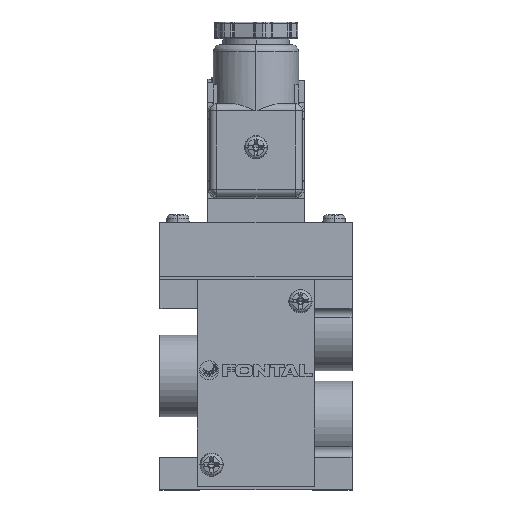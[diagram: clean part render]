
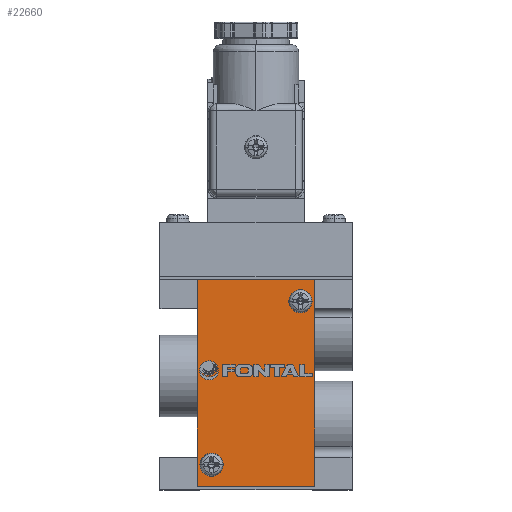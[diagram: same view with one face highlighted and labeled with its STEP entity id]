
A CAD part, top view. The second image highlights one B-rep face of the part: STEP entity #22660.
In plain terms, the highlighted planar face has unit normal (0, 0, 1).
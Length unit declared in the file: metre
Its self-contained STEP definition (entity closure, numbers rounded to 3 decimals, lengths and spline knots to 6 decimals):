
#541 = CARTESIAN_POINT ( 'NONE',  ( 0.0165, 0.029, 0.0016 ) ) ;
#773 = DIRECTION ( 'NONE',  ( 1., 0., 0. ) ) ;
#1179 = CARTESIAN_POINT ( 'NONE',  ( 0., 0.029, 0.0016 ) ) ;
#1289 = DIRECTION ( 'NONE',  ( 0., 0., 1. ) ) ;
#1467 = VERTEX_POINT ( 'NONE', #6430 ) ;
#1521 = EDGE_CURVE ( 'NONE', #15125, #1467, #24216, .T. ) ;
#1879 = ORIENTED_EDGE ( 'NONE', *, *, #1521, .F. ) ;
#2468 = CARTESIAN_POINT ( 'NONE',  ( -0.0105, -0.023, 0.0016 ) ) ;
#2470 = VERTEX_POINT ( 'NONE', #5895 ) ;
#3656 = VECTOR ( 'NONE', #24453, 1. ) ;
#3700 = ORIENTED_EDGE ( 'NONE', *, *, #21909, .F. ) ;
#3944 = CARTESIAN_POINT ( 'NONE',  ( 0.0165, -0.029, 0.0016 ) ) ;
#4096 = FACE_OUTER_BOUND ( 'NONE', #26888, .T. ) ;
#4547 = DIRECTION ( 'NONE',  ( 0., 0., 1. ) ) ;
#5198 = ORIENTED_EDGE ( 'NONE', *, *, #10574, .F. ) ;
#5479 = CARTESIAN_POINT ( 'NONE',  ( -0.0165, -0.029, 0.0016 ) ) ;
#5895 = CARTESIAN_POINT ( 'NONE',  ( -0.0145, -0.023, 0.0016 ) ) ;
#5945 = AXIS2_PLACEMENT_3D ( 'NONE', #14179, #1289, #16351 ) ;
#6124 = DIRECTION ( 'NONE',  ( 0., 0., -1. ) ) ;
#6430 = CARTESIAN_POINT ( 'NONE',  ( 0.0145, 0.023, 0.0016 ) ) ;
#6559 = CARTESIAN_POINT ( 'NONE',  ( -0.0125, -0.023, 0.0016 ) ) ;
#6743 = EDGE_LOOP ( 'NONE', ( #27278, #19245 ) ) ;
#6746 = VERTEX_POINT ( 'NONE', #21841 ) ;
#7793 = EDGE_CURVE ( 'NONE', #2470, #17651, #13825, .T. ) ;
#8023 = ORIENTED_EDGE ( 'NONE', *, *, #26272, .F. ) ;
#8698 = DIRECTION ( 'NONE',  ( 1., 0., 0. ) ) ;
#9001 = EDGE_LOOP ( 'NONE', ( #3700, #1879 ) ) ;
#9319 = VECTOR ( 'NONE', #16247, 1. ) ;
#9747 = FACE_BOUND ( 'NONE', #9001, .T. ) ;
#10543 = CARTESIAN_POINT ( 'NONE',  ( -0.0165, 0., 0.0016 ) ) ;
#10574 = EDGE_CURVE ( 'NONE', #19387, #6746, #15083, .T. ) ;
#11661 = CARTESIAN_POINT ( 'NONE',  ( 0.0105, 0.023, 0.0016 ) ) ;
#12496 = PLANE ( 'NONE',  #25179 ) ;
#12655 = EDGE_CURVE ( 'NONE', #17651, #2470, #25483, .T. ) ;
#12942 = AXIS2_PLACEMENT_3D ( 'NONE', #17410, #4547, #19622 ) ;
#13609 = DIRECTION ( 'NONE',  ( 0., 0., 1. ) ) ;
#13825 = CIRCLE ( 'NONE', #16481, 0.002 ) ;
#14179 = CARTESIAN_POINT ( 'NONE',  ( -0.0125, -0.023, 0.0016 ) ) ;
#14433 = VERTEX_POINT ( 'NONE', #5479 ) ;
#15083 = LINE ( 'NONE', #22296, #3656 ) ;
#15125 = VERTEX_POINT ( 'NONE', #11661 ) ;
#15503 = FACE_BOUND ( 'NONE', #6743, .T. ) ;
#15809 = CARTESIAN_POINT ( 'NONE',  ( -0.0165, 0.029, 0.0016 ) ) ;
#16103 = VECTOR ( 'NONE', #23261, 1. ) ;
#16247 = DIRECTION ( 'NONE',  ( 1., 0., 0. ) ) ;
#16351 = DIRECTION ( 'NONE',  ( 1., 0., 0. ) ) ;
#16481 = AXIS2_PLACEMENT_3D ( 'NONE', #6559, #21661, #8698 ) ;
#17410 = CARTESIAN_POINT ( 'NONE',  ( 0.0125, 0.023, 0.0016 ) ) ;
#17651 = VERTEX_POINT ( 'NONE', #2468 ) ;
#18533 = LINE ( 'NONE', #10543, #22933 ) ;
#19074 = ORIENTED_EDGE ( 'NONE', *, *, #24629, .F. ) ;
#19245 = ORIENTED_EDGE ( 'NONE', *, *, #7793, .F. ) ;
#19387 = VERTEX_POINT ( 'NONE', #541 ) ;
#19622 = DIRECTION ( 'NONE',  ( 1., 0., 0. ) ) ;
#20440 = VERTEX_POINT ( 'NONE', #15809 ) ;
#20451 = AXIS2_PLACEMENT_3D ( 'NONE', #26606, #13609, #773 ) ;
#21179 = DIRECTION ( 'NONE',  ( -1., 0., 0. ) ) ;
#21661 = DIRECTION ( 'NONE',  ( 0., 0., 1. ) ) ;
#21841 = CARTESIAN_POINT ( 'NONE',  ( 0.0165, -0.029, 0.0016 ) ) ;
#21909 = EDGE_CURVE ( 'NONE', #1467, #15125, #27832, .T. ) ;
#22296 = CARTESIAN_POINT ( 'NONE',  ( 0.0165, 0., 0.0016 ) ) ;
#22660 = ADVANCED_FACE ( 'NONE', ( #9747, #15503, #4096 ), #12496, .F. ) ;
#22933 = VECTOR ( 'NONE', #27855, 1. ) ;
#23261 = DIRECTION ( 'NONE',  ( -1., 0., 0. ) ) ;
#23444 = CARTESIAN_POINT ( 'NONE',  ( 0., -0.029, 0.0016 ) ) ;
#24018 = EDGE_CURVE ( 'NONE', #6746, #14433, #26282, .T. ) ;
#24216 = CIRCLE ( 'NONE', #12942, 0.002 ) ;
#24307 = ORIENTED_EDGE ( 'NONE', *, *, #24018, .F. ) ;
#24453 = DIRECTION ( 'NONE',  ( 0., -1., 0. ) ) ;
#24629 = EDGE_CURVE ( 'NONE', #14433, #20440, #18533, .T. ) ;
#25179 = AXIS2_PLACEMENT_3D ( 'NONE', #3944, #6124, #21179 ) ;
#25483 = CIRCLE ( 'NONE', #5945, 0.002 ) ;
#25898 = LINE ( 'NONE', #1179, #9319 ) ;
#26272 = EDGE_CURVE ( 'NONE', #20440, #19387, #25898, .T. ) ;
#26282 = LINE ( 'NONE', #23444, #16103 ) ;
#26606 = CARTESIAN_POINT ( 'NONE',  ( 0.0125, 0.023, 0.0016 ) ) ;
#26888 = EDGE_LOOP ( 'NONE', ( #8023, #19074, #24307, #5198 ) ) ;
#27278 = ORIENTED_EDGE ( 'NONE', *, *, #12655, .F. ) ;
#27832 = CIRCLE ( 'NONE', #20451, 0.002 ) ;
#27855 = DIRECTION ( 'NONE',  ( 0., 1., 0. ) ) ;
